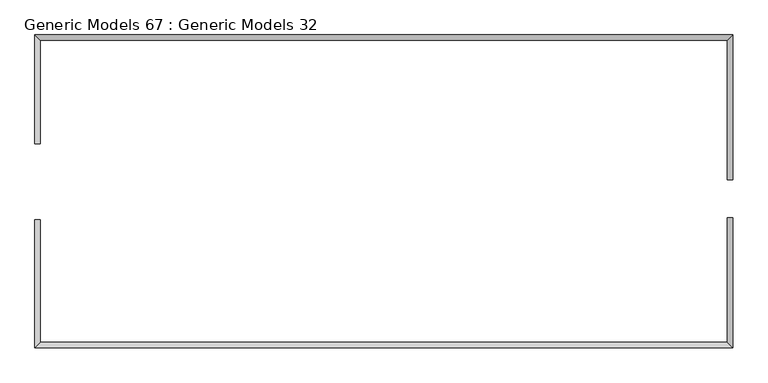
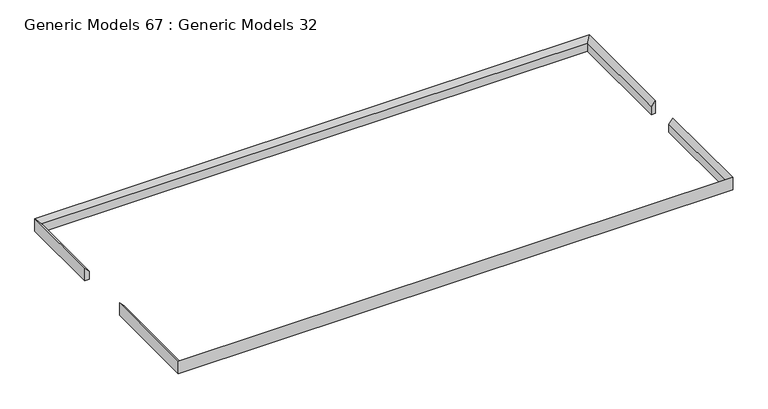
"""IFC4 building model written with IfcOpenShell, lengths in millimetres: proxy geometry, Generic Models 67 : Generic Models 32."""

from ifc_helpers import new_model, si_unit, origin, place, context, project, spatial, faceted_brep, source, transform, mapped, element, save


def generic_models_67_generic_models_32_a422b838(model_context):
    return source(origin(), model_context, "Body", "Brep", [
        faceted_brep([(-105097.9372768, 32355.969902, 44170.0), (-104947.9372768, 32355.969902, 44170.0), (-104947.9372768, 32355.969902, 44630.0), (-105097.9372768, 32355.969902, 44470.0), (-105097.9372768, 36205.969902, 44170.0), (-105097.9372768, 36205.969902, 44470.0), (-124097.9372768, 36205.969902, 44470.0), (-124097.9372768, 36205.969902, 44170.0), (-104947.9372768, 36355.969902, 44630.0), (-124247.9372768, 36355.969902, 44630.0), (-104947.9372768, 36355.969902, 44170.0), (-124247.9372768, 36355.969902, 44170.0), (-124097.9372768, 33340.9151802, 44170.0), (-124097.9372768, 33340.9151802, 44470.0), (-124247.9372768, 33340.9151802, 44630.0), (-124247.9372768, 33340.9151802, 44170.0)], [[[0, 1, 2, 3]], [[4, 5, 6, 7]], [[5, 8, 9, 6]], [[8, 10, 11, 9]], [[12, 13, 14, 15]], [[7, 6, 13, 12]], [[6, 9, 14, 13]], [[9, 11, 15, 14]], [[0, 3, 5, 4]], [[3, 2, 8, 5]], [[2, 1, 10, 8]], [[1, 0, 4, 7, 12, 15, 11, 10]]]),
        faceted_brep([(-105097.9372768, 27858.4151802, 44470.0), (-105097.9372768, 27858.4151802, 44170.0), (-124097.9372768, 27858.4151802, 44170.0), (-124097.9372768, 27858.4151802, 44470.0), (-104947.9372768, 27708.4151802, 44630.0), (-124247.9372768, 27708.4151802, 44630.0), (-104947.9372768, 27708.4151802, 44170.0), (-124247.9372768, 27708.4151802, 44170.0), (-124097.9372768, 31240.9151802, 44170.0), (-124097.9372768, 31240.9151802, 44470.0), (-124247.9372768, 31240.9151802, 44630.0), (-124247.9372768, 31240.9151802, 44170.0), (-105097.9372768, 31300.9151802, 44170.0), (-105097.9372768, 31300.9151802, 44470.0), (-104947.9372768, 31300.9151802, 44630.0), (-104947.9372768, 31300.9151802, 44170.0)], [[[0, 1, 2, 3]], [[4, 0, 3, 5]], [[6, 4, 5, 7]], [[3, 2, 8, 9]], [[5, 3, 9, 10]], [[7, 5, 10, 11]], [[12, 13, 14, 15]], [[8, 11, 10, 9]], [[13, 12, 1, 0]], [[14, 13, 0, 4]], [[15, 14, 4, 6]], [[12, 15, 6, 7, 11, 8, 2, 1]]]),
    ])


if __name__ == "__main__":
    model = new_model("IFC4")
    model_context = context("Model", 3, world=origin())
    ifc_project = project(units=[si_unit("LENGTHUNIT", "METRE", prefix="MILLI")], contexts=[model_context])
    site = spatial("IfcSite", under=ifc_project)
    building = spatial("IfcBuilding", under=site)
    placement = place(None, origin())
    generic_models_67_generic_models_32_shape = generic_models_67_generic_models_32_a422b838(model_context)
    element("IfcBuildingElementProxy", 1, Name="Generic Models 67 : Generic Models 32", ObjectType="Generic Models 67 : Generic Models 32", at=placement, inside=building, context=model_context, shape_type="MappedRepresentation", body=[
        mapped(generic_models_67_generic_models_32_shape, transform((0.0, 0.0, 0.0), x_axis=(1.0, 0.0, 0.0), y_axis=(0.0, 1.0, 0.0), z_axis=(0.0, 0.0, 1.0))),
    ])
    save(model, "model.ifc")
